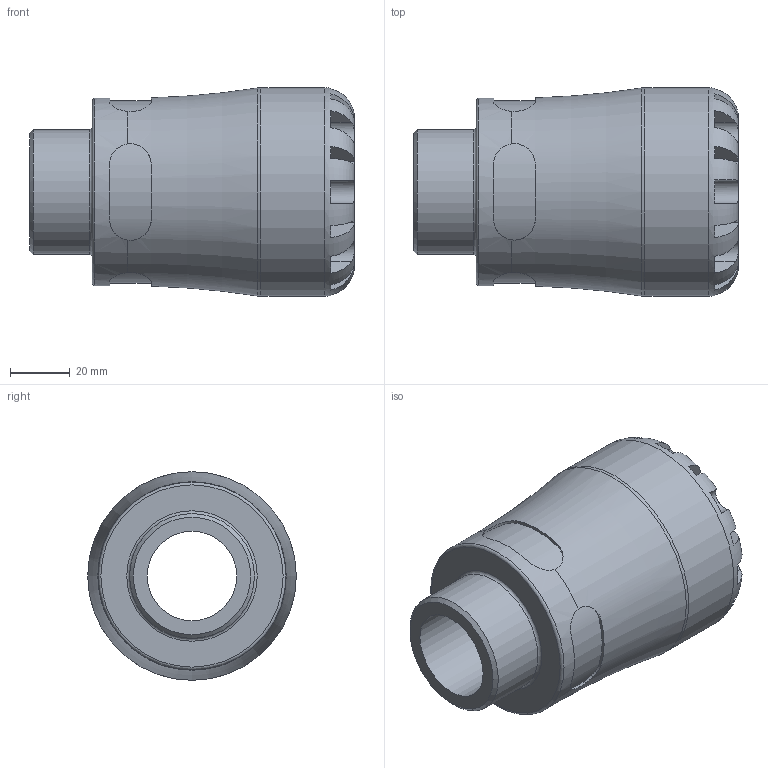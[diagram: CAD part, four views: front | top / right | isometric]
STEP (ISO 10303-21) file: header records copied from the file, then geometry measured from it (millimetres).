
FILE_DESCRIPTION(/* description */ ('PLASSON G-PLASS Male Adaptor 40X 1 1/4'''''),/* implementation_level */ '2;1');
FILE_NAME(/* name */ 'C:\Dropbox\KIMPROJECTS-Inventor 2019\99-16-3568-Processing\S1\150200\stp\150200040013.stp',/* time_stamp */ '2023-10-17T19:14:50+03:00',/* author */ ('KIM'),/* organization */ (''),/* preprocessor_version */ 'ST-DEVELOPER v17.2',/* originating_system */ 'Autodesk Inventor 2019',/* authorisation */ '');
FILE_SCHEMA (('AUTOMOTIVE_DESIGN { 1 0 10303 214 3 1 1 }'));
Length unit declared in the file: millimetre
Products named in the file (1): 150200040013
Bounding box: 109 x 70 x 70 mm (x, y, z)
Volume: 207761.4 mm3; surface area: 40355.5 mm2
Topology: 1 solids, 1 shells, 100 faces, 273 edges, 177 vertices
Faces by surface type: plane 60, cylinder 33, torus 5, cone 2
Full cylindrical faces by diameter (mm): 30 x1, 40 x1, 41.91 x1, 63 x1, 70 x1
Entity records: 4123 total; most frequent: CARTESIAN_POINT 1507, ORIENTED_EDGE 546, DIRECTION 517, EDGE_CURVE 273, AXIS2_PLACEMENT_3D 215, VERTEX_POINT 177, CIRCLE 114, EDGE_LOOP 104
